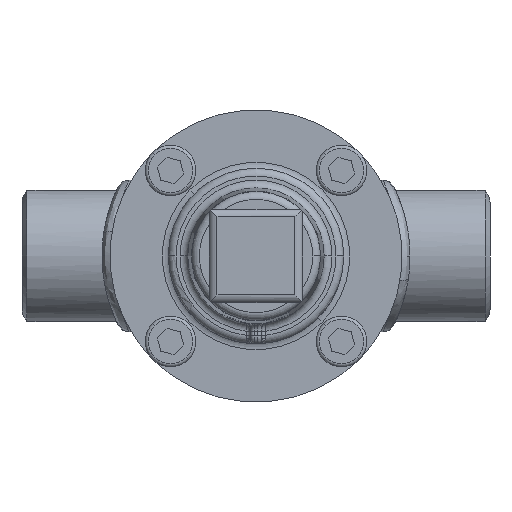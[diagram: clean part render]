
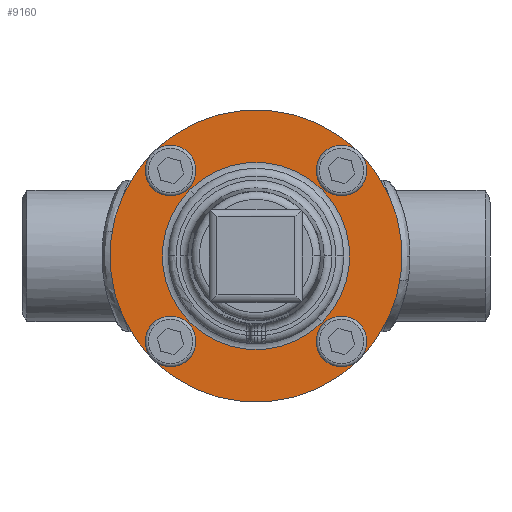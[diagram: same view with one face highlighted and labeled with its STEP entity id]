
A CAD part, front view. The second image highlights one B-rep face of the part: STEP entity #9160.
In plain terms, the highlighted planar face has unit normal (0, -1, 0) as drawn and (0, 0, -1) by its records, which use the part's own axes.
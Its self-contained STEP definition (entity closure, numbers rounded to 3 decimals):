
#345 = VERTEX_POINT ( 'NONE', #16889 ) ;
#489 = EDGE_LOOP ( 'NONE', ( #20870, #19905 ) ) ;
#16889 = CARTESIAN_POINT ( 'NONE',  ( 35.5, 0., -14. ) ) ;
#756 = ORIENTED_EDGE ( 'NONE', *, *, #10777, .T. ) ;
#17642 = CARTESIAN_POINT ( 'NONE',  ( 24., 0., -14. ) ) ;
#1272 = EDGE_CURVE ( 'NONE', #10334, #10552, #18123, .T. ) ;
#17890 = CARTESIAN_POINT ( 'NONE',  ( -24., 0., -14. ) ) ;
#1646 = ORIENTED_EDGE ( 'NONE', *, *, #1272, .T. ) ;
#18123 = CIRCLE ( 'NONE', #18124, 24. ) ;
#18124 = AXIS2_PLACEMENT_3D ( 'NONE', #18125, #18126, #18127 ) ;
#18125 = CARTESIAN_POINT ( 'NONE',  ( 0., 0., -14. ) ) ;
#18126 = DIRECTION ( 'NONE',  ( 0., 0., 1. ) ) ;
#18127 = DIRECTION ( 'NONE',  ( 1., 0., 0. ) ) ;
#18265 = CIRCLE ( 'NONE', #18266, 24. ) ;
#18266 = AXIS2_PLACEMENT_3D ( 'NONE', #18267, #18268, #18269 ) ;
#18267 = CARTESIAN_POINT ( 'NONE',  ( 0., 0., -14. ) ) ;
#18268 = DIRECTION ( 'NONE',  ( 0., 0., 1. ) ) ;
#18269 = DIRECTION ( 'NONE',  ( 1., 0., 0. ) ) ;
#2165 = EDGE_LOOP ( 'NONE', ( #1646, #756 ) ) ;
#18696 = CIRCLE ( 'NONE', #18697, 37.5 ) ;
#18697 = AXIS2_PLACEMENT_3D ( 'NONE', #18698, #18699, #18700 ) ;
#18698 = CARTESIAN_POINT ( 'NONE',  ( 0., 0., -14. ) ) ;
#18699 = DIRECTION ( 'NONE',  ( 0., 0., 1. ) ) ;
#18700 = DIRECTION ( 'NONE',  ( 1., 0., 0. ) ) ;
#2403 = ORIENTED_EDGE ( 'NONE', *, *, #13614, .F. ) ;
#18950 = CIRCLE ( 'NONE', #18951, 4.5 ) ;
#18951 = AXIS2_PLACEMENT_3D ( 'NONE', #18952, #18953, #18954 ) ;
#18952 = CARTESIAN_POINT ( 'NONE',  ( 0., -31., -14. ) ) ;
#18953 = DIRECTION ( 'NONE',  ( 0., 0., -1. ) ) ;
#18954 = DIRECTION ( 'NONE',  ( 1., 0., 0. ) ) ;
#2788 = EDGE_CURVE ( 'NONE', #9307, #6813, #4799, .T. ) ;
#19213 = EDGE_CURVE ( 'NONE', #14212, #14431, #18696, .T. ) ;
#19905 = ORIENTED_EDGE ( 'NONE', *, *, #19213, .F. ) ;
#20732 = VERTEX_POINT ( 'NONE', #6867 ) ;
#20864 = FACE_BOUND ( 'NONE', #8928, .T. ) ;
#20865 = FACE_BOUND ( 'NONE', #11971, .T. ) ;
#20866 = FACE_BOUND ( 'NONE', #10335, .T. ) ;
#20870 = ORIENTED_EDGE ( 'NONE', *, *, #14649, .F. ) ;
#20887 = FACE_BOUND ( 'NONE', #8540, .T. ) ;
#20888 = FACE_BOUND ( 'NONE', #2165, .T. ) ;
#20889 = FACE_OUTER_BOUND ( 'NONE', #489, .T. ) ;
#20924 = PLANE ( 'NONE',  #20925 ) ;
#20925 = AXIS2_PLACEMENT_3D ( 'NONE', #20926, #20927, #20928 ) ;
#20926 = CARTESIAN_POINT ( 'NONE',  ( 0., 0., -14. ) ) ;
#20927 = DIRECTION ( 'NONE',  ( 0., 0., 1. ) ) ;
#20928 = DIRECTION ( 'NONE',  ( 1., 0., 0. ) ) ;
#21140 = EDGE_CURVE ( 'NONE', #15992, #20732, #8030, .T. ) ;
#4799 = CIRCLE ( 'NONE', #4800, 4.5 ) ;
#4800 = AXIS2_PLACEMENT_3D ( 'NONE', #4801, #4802, #4803 ) ;
#4801 = CARTESIAN_POINT ( 'NONE',  ( 0., -31., -14. ) ) ;
#4802 = DIRECTION ( 'NONE',  ( 0., 0., -1. ) ) ;
#4803 = DIRECTION ( 'NONE',  ( 1., 0., 0. ) ) ;
#6112 = CARTESIAN_POINT ( 'NONE',  ( -4.5, 31., -14. ) ) ;
#6241 = CIRCLE ( 'NONE', #6242, 4.5 ) ;
#6242 = AXIS2_PLACEMENT_3D ( 'NONE', #6243, #6244, #6245 ) ;
#6243 = CARTESIAN_POINT ( 'NONE',  ( 0., 31., -14. ) ) ;
#6244 = DIRECTION ( 'NONE',  ( 0., 0., -1. ) ) ;
#6245 = DIRECTION ( 'NONE',  ( -1., 0., 0. ) ) ;
#6591 = VERTEX_POINT ( 'NONE', #11354 ) ;
#6715 = CIRCLE ( 'NONE', #6716, 4.5 ) ;
#6716 = AXIS2_PLACEMENT_3D ( 'NONE', #6719, #6720, #6721 ) ;
#6719 = CARTESIAN_POINT ( 'NONE',  ( -31., 0., -14. ) ) ;
#6720 = DIRECTION ( 'NONE',  ( 0., 0., -1. ) ) ;
#6721 = DIRECTION ( 'NONE',  ( 0., -1., 0. ) ) ;
#6748 = CARTESIAN_POINT ( 'NONE',  ( 4.5, -31., -14. ) ) ;
#6812 = EDGE_CURVE ( 'NONE', #345, #6591, #11594, .T. ) ;
#6813 = VERTEX_POINT ( 'NONE', #11599 ) ;
#6867 = CARTESIAN_POINT ( 'NONE',  ( -35.5, 0., -14. ) ) ;
#7524 = ORIENTED_EDGE ( 'NONE', *, *, #6812, .F. ) ;
#7654 = EDGE_CURVE ( 'NONE', #13397, #14507, #12091, .T. ) ;
#7896 = CARTESIAN_POINT ( 'NONE',  ( -37.5, 0., -14. ) ) ;
#8024 = ORIENTED_EDGE ( 'NONE', *, *, #7654, .F. ) ;
#8030 = CIRCLE ( 'NONE', #8031, 4.5 ) ;
#8031 = AXIS2_PLACEMENT_3D ( 'NONE', #8032, #8033, #8034 ) ;
#8032 = CARTESIAN_POINT ( 'NONE',  ( -31., 0., -14. ) ) ;
#8033 = DIRECTION ( 'NONE',  ( 0., 0., -1. ) ) ;
#8034 = DIRECTION ( 'NONE',  ( 0., -1., 0. ) ) ;
#8041 = EDGE_CURVE ( 'NONE', #6591, #345, #12910, .T. ) ;
#8306 = CARTESIAN_POINT ( 'NONE',  ( 37.5, 0., -14. ) ) ;
#8370 = CARTESIAN_POINT ( 'NONE',  ( 4.5, 31., -14. ) ) ;
#8407 = ORIENTED_EDGE ( 'NONE', *, *, #8041, .F. ) ;
#8475 = CIRCLE ( 'NONE', #8476, 37.5 ) ;
#8476 = AXIS2_PLACEMENT_3D ( 'NONE', #8477, #8478, #8481 ) ;
#8477 = CARTESIAN_POINT ( 'NONE',  ( 0., 0., -14. ) ) ;
#8478 = DIRECTION ( 'NONE',  ( 0., 0., 1. ) ) ;
#8481 = DIRECTION ( 'NONE',  ( 1., 0., 0. ) ) ;
#8540 = EDGE_LOOP ( 'NONE', ( #8024, #2403 ) ) ;
#8780 = ORIENTED_EDGE ( 'NONE', *, *, #21140, .F. ) ;
#8928 = EDGE_LOOP ( 'NONE', ( #8407, #7524 ) ) ;
#9160 = ADVANCED_FACE ( 'NONE', ( #20864, #20865, #20866, #20887, #20888, #20889 ), #20924, .F. ) ;
#9287 = EDGE_CURVE ( 'NONE', #20732, #15992, #6715, .T. ) ;
#9307 = VERTEX_POINT ( 'NONE', #6748 ) ;
#9657 = ORIENTED_EDGE ( 'NONE', *, *, #9287, .F. ) ;
#10334 = VERTEX_POINT ( 'NONE', #17642 ) ;
#10335 = EDGE_LOOP ( 'NONE', ( #9657, #8780 ) ) ;
#10552 = VERTEX_POINT ( 'NONE', #17890 ) ;
#10572 = ORIENTED_EDGE ( 'NONE', *, *, #2788, .F. ) ;
#10777 = EDGE_CURVE ( 'NONE', #10552, #10334, #18265, .T. ) ;
#11088 = EDGE_CURVE ( 'NONE', #6813, #9307, #18950, .T. ) ;
#11354 = CARTESIAN_POINT ( 'NONE',  ( 26.5, 0., -14. ) ) ;
#11360 = CARTESIAN_POINT ( 'NONE',  ( -26.5, 0., -14. ) ) ;
#11463 = ORIENTED_EDGE ( 'NONE', *, *, #11088, .F. ) ;
#11594 = CIRCLE ( 'NONE', #11595, 4.5 ) ;
#11595 = AXIS2_PLACEMENT_3D ( 'NONE', #11596, #11597, #11598 ) ;
#11596 = CARTESIAN_POINT ( 'NONE',  ( 31., 0., -14. ) ) ;
#11597 = DIRECTION ( 'NONE',  ( 0., 0., -1. ) ) ;
#11598 = DIRECTION ( 'NONE',  ( 0., 1., 0. ) ) ;
#11599 = CARTESIAN_POINT ( 'NONE',  ( -4.5, -31., -14. ) ) ;
#11971 = EDGE_LOOP ( 'NONE', ( #11463, #10572 ) ) ;
#12091 = CIRCLE ( 'NONE', #12092, 4.5 ) ;
#12092 = AXIS2_PLACEMENT_3D ( 'NONE', #12093, #12094, #12095 ) ;
#12093 = CARTESIAN_POINT ( 'NONE',  ( 0., 31., -14. ) ) ;
#12094 = DIRECTION ( 'NONE',  ( 0., 0., -1. ) ) ;
#12095 = DIRECTION ( 'NONE',  ( -1., 0., 0. ) ) ;
#12910 = CIRCLE ( 'NONE', #12911, 4.5 ) ;
#12911 = AXIS2_PLACEMENT_3D ( 'NONE', #12912, #12913, #12914 ) ;
#12912 = CARTESIAN_POINT ( 'NONE',  ( 31., 0., -14. ) ) ;
#12913 = DIRECTION ( 'NONE',  ( 0., 0., -1. ) ) ;
#12914 = DIRECTION ( 'NONE',  ( 0., 1., 0. ) ) ;
#13397 = VERTEX_POINT ( 'NONE', #6112 ) ;
#13614 = EDGE_CURVE ( 'NONE', #14507, #13397, #6241, .T. ) ;
#14212 = VERTEX_POINT ( 'NONE', #7896 ) ;
#14431 = VERTEX_POINT ( 'NONE', #8306 ) ;
#14507 = VERTEX_POINT ( 'NONE', #8370 ) ;
#14649 = EDGE_CURVE ( 'NONE', #14431, #14212, #8475, .T. ) ;
#15992 = VERTEX_POINT ( 'NONE', #11360 ) ;
